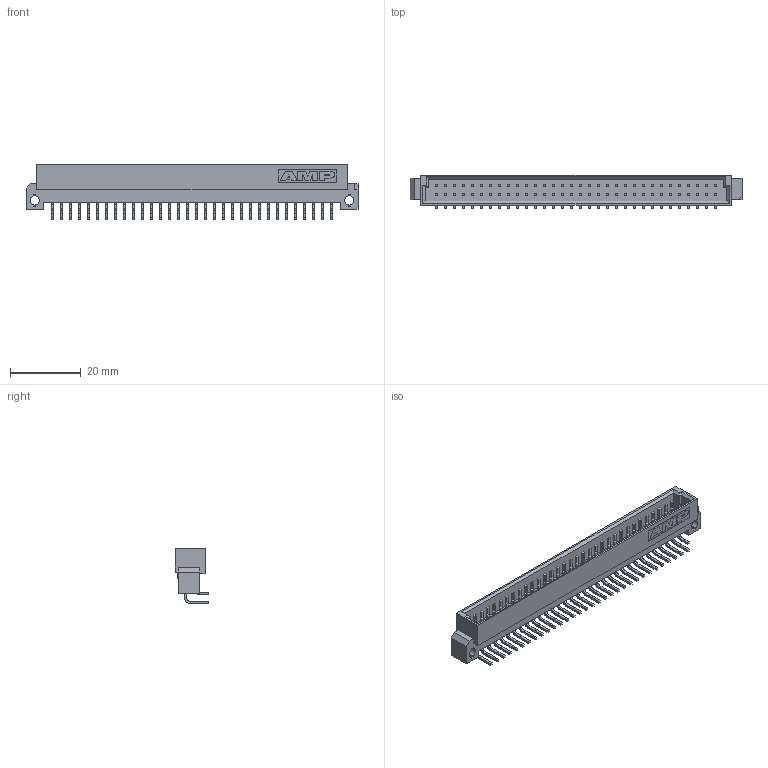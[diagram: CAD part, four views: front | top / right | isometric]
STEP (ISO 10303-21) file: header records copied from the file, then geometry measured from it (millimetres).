
FILE_DESCRIPTION((''),'2;1');
FILE_NAME('C-536052-5','2012-04-18T',('workeradm'),('Tyco Electronics Ltd.'),'PRO/ENGINEER BY PARAMETRIC TECHNOLOGY CORPORATION, 2010430','PRO/ENGINEER BY PARAMETRIC TECHNOLOGY CORPORATION, 2010430','');
FILE_SCHEMA(('AUTOMOTIVE_DESIGN { 1 0 10303 214 1 1 1 1 }'));
Length unit declared in the file: millimetre
Products named in the file (1): C-536052-5
Bounding box: 93.85 x 9.56 x 15.51 mm (x, y, z)
Volume: 4228.6 mm3; surface area: 7002.2 mm2
Topology: 1 solids, 1 shells, 1254 faces, 3310 edges, 2204 vertices
Faces by surface type: plane 1119, cylinder 133, extrusion 2
Entity records: 38495 total; most frequent: CARTESIAN_POINT 6836, ORIENTED_EDGE 6620, DIRECTION 6078, EDGE_CURVE 3310, VECTOR 3042, LINE 3040, VERTEX_POINT 2204, AXIS2_PLACEMENT_3D 1518
